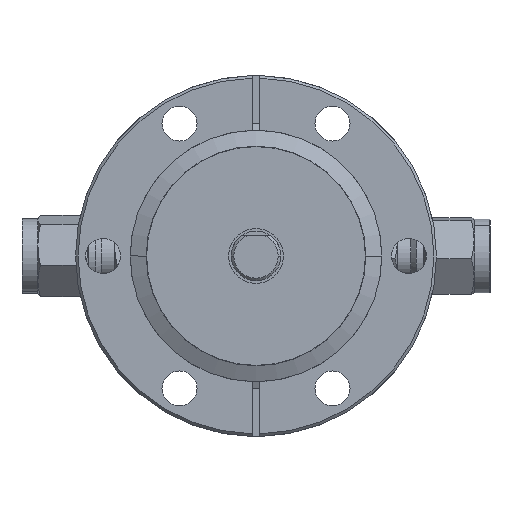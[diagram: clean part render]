
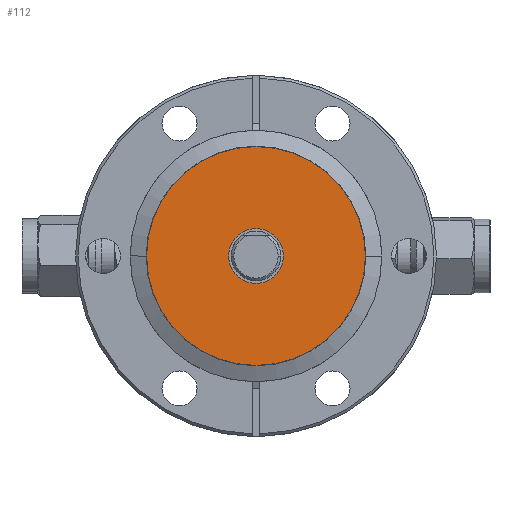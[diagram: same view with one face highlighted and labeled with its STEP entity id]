
A CAD part, left-side view. The second image highlights one B-rep face of the part: STEP entity #112.
In plain terms, the highlighted planar face has unit normal (-1, 0, 0).
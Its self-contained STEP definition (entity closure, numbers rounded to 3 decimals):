
#111 = EDGE_CURVE ( 'NONE', #2668, #2671, #3963, .T. ) ;
#112 = ADVANCED_FACE ( 'NONE', ( #3958, #3957 ), #3956, .T. ) ;
#113 = EDGE_LOOP ( 'NONE', ( #114, #115 ) ) ;
#114 = ORIENTED_EDGE ( 'NONE', *, *, #2681, .F. ) ;
#115 = ORIENTED_EDGE ( 'NONE', *, *, #116, .F. ) ;
#116 = EDGE_CURVE ( 'NONE', #2683, #2682, #3950, .T. ) ;
#117 = EDGE_LOOP ( 'NONE', ( #118, #119 ) ) ;
#118 = ORIENTED_EDGE ( 'NONE', *, *, #2670, .T. ) ;
#119 = ORIENTED_EDGE ( 'NONE', *, *, #111, .T. ) ;
#2668 = VERTEX_POINT ( 'NONE', #18989 ) ;
#2670 = EDGE_CURVE ( 'NONE', #2671, #2668, #18988, .T. ) ;
#2671 = VERTEX_POINT ( 'NONE', #18983 ) ;
#2681 = EDGE_CURVE ( 'NONE', #2682, #2683, #19025, .T. ) ;
#2682 = VERTEX_POINT ( 'NONE', #19021 ) ;
#2683 = VERTEX_POINT ( 'NONE', #19020 ) ;
#3949 = AXIS2_PLACEMENT_3D ( 'NONE', #4015, #4014, #4013 ) ;
#3950 = CIRCLE ( 'NONE', #3949, 21. ) ;
#3952 = DIRECTION ( 'NONE',  ( 0., -1., 0. ) ) ;
#3953 = DIRECTION ( 'NONE',  ( -1., 0., 0. ) ) ;
#3954 = CARTESIAN_POINT ( 'NONE',  ( 20.55, 0., 0. ) ) ;
#3955 = AXIS2_PLACEMENT_3D ( 'NONE', #3954, #3953, #3952 ) ;
#3956 = PLANE ( 'NONE',  #3955 ) ;
#3957 = FACE_BOUND ( 'NONE', #117, .T. ) ;
#3958 = FACE_OUTER_BOUND ( 'NONE', #113, .T. ) ;
#3959 = DIRECTION ( 'NONE',  ( 0., -1., 0. ) ) ;
#3960 = DIRECTION ( 'NONE',  ( 1., 0., 0. ) ) ;
#3961 = CARTESIAN_POINT ( 'NONE',  ( 20.55, 0., 0. ) ) ;
#3962 = AXIS2_PLACEMENT_3D ( 'NONE', #3961, #3960, #3959 ) ;
#3963 = CIRCLE ( 'NONE', #3962, 5.262 ) ;
#4013 = DIRECTION ( 'NONE',  ( 0., -1., 0. ) ) ;
#4014 = DIRECTION ( 'NONE',  ( 1., 0., 0. ) ) ;
#4015 = CARTESIAN_POINT ( 'NONE',  ( 20.55, 0., 0. ) ) ;
#18983 = CARTESIAN_POINT ( 'NONE',  ( 20.55, -5.262, 0. ) ) ;
#18984 = DIRECTION ( 'NONE',  ( 0., -1., 0. ) ) ;
#18985 = DIRECTION ( 'NONE',  ( 1., 0., 0. ) ) ;
#18986 = CARTESIAN_POINT ( 'NONE',  ( 20.55, 0., 0. ) ) ;
#18987 = AXIS2_PLACEMENT_3D ( 'NONE', #18986, #18985, #18984 ) ;
#18988 = CIRCLE ( 'NONE', #18987, 5.262 ) ;
#18989 = CARTESIAN_POINT ( 'NONE',  ( 20.55, 5.262, 0. ) ) ;
#19020 = CARTESIAN_POINT ( 'NONE',  ( 20.55, 21., 0. ) ) ;
#19021 = CARTESIAN_POINT ( 'NONE',  ( 20.55, -21., 0. ) ) ;
#19022 = DIRECTION ( 'NONE',  ( 0., -1., 0. ) ) ;
#19023 = DIRECTION ( 'NONE',  ( 1., 0., 0. ) ) ;
#19024 = AXIS2_PLACEMENT_3D ( 'NONE', #19031, #19023, #19022 ) ;
#19025 = CIRCLE ( 'NONE', #19024, 21. ) ;
#19031 = CARTESIAN_POINT ( 'NONE',  ( 20.55, 0., 0. ) ) ;
